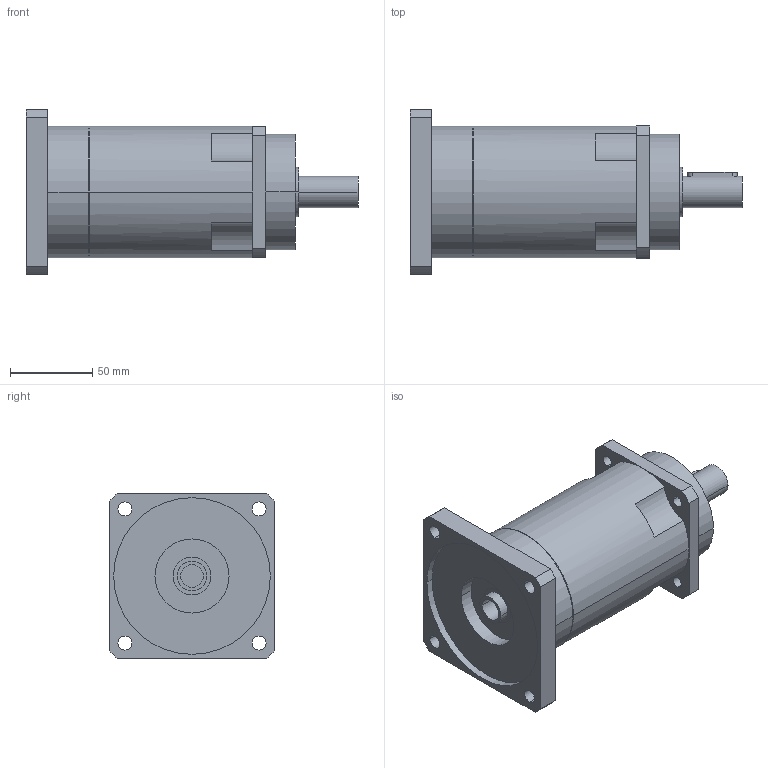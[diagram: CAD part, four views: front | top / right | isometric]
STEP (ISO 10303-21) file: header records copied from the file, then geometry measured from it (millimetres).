
FILE_DESCRIPTION(('CoCreate Modeling STEP Export'),'2;1');
FILE_NAME('GPR100_ig-48-64-80-100-120-144-180-216_19_B5_14_P07.stp','2014-08-26T11:55:03',(''),(''),'CoCreate Modeling STEP processor for AP214 (Solid Model)','CoCreate Modeling 16.00C 25-Feb-2009 (C) Parametric Technology GmbH','');
FILE_SCHEMA(('AUTOMOTIVE_DESIGN { 1 0 10303 214 1 1 1 1 }'));
Length unit declared in the file: millimetre
Products named in the file (2): GPR100_ig-48-64-80-100-120-144-180-216_19_B5_14_P07
Assembly tree (1 placements, depth 2):
  GPR100_ig-48-64-80-100-120-144-180-216_19_B5_14_P07
    GPR100_ig-48-64-80-100-120-144-180-216_19_B5_14_P07
Bounding box: 201.4 x 100 x 100 mm (x, y, z)
Volume: 825622.2 mm3; surface area: 74431.7 mm2
Topology: 1 solids, 1 shells, 89 faces, 247 edges, 169 vertices
Faces by surface type: cylinder 52, plane 31, cone 6
Entity records: 2612 total; most frequent: ORIENTED_EDGE 490, CARTESIAN_POINT 474, DIRECTION 386, EDGE_CURVE 245, VERTEX_POINT 169, AXIS2_PLACEMENT_3D 145, EDGE_LOOP 116, VECTOR 96
